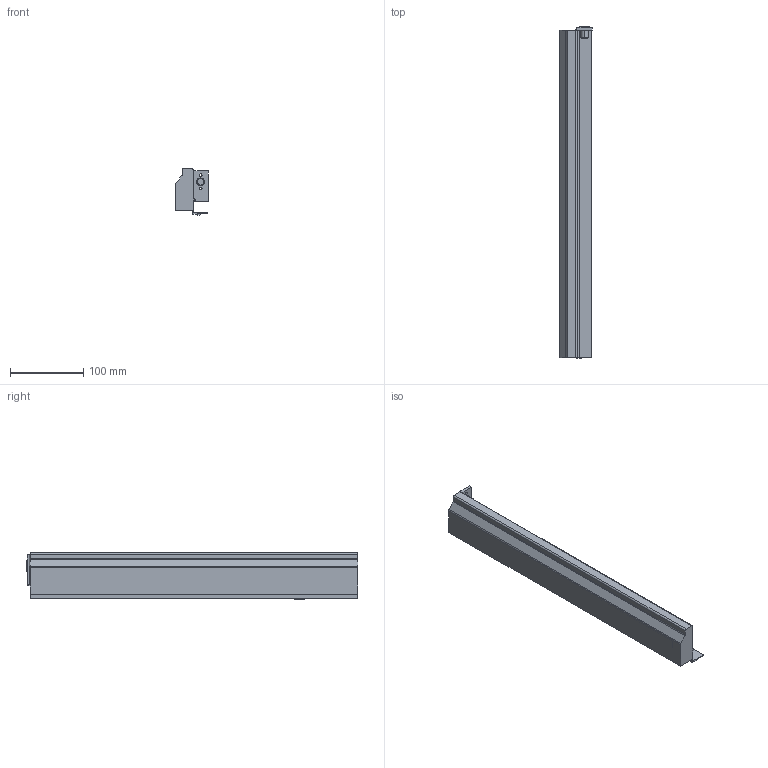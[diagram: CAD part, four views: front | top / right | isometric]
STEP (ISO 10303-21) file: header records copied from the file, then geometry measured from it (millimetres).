
FILE_DESCRIPTION (( 'STEP AP214' ), '1' );
FILE_NAME ('IMOS_NOVA-Pro_Dekor-H63_CL_NL450_LI.step', '2010-09-28T15:26:09', ( 'grass' ), ( '' ), 'SwSTEP 2.0', 'SolidWorks 2010', '' );
FILE_SCHEMA (( 'AUTOMOTIVE_DESIGN' ));
Length unit declared in the file: millimetre
Products named in the file (1): IMOS_NOVA-Pro_Dekor-H63_CL_NL450_LI
Bounding box: 44.3 x 452.7 x 63.49 mm (x, y, z)
Volume: 217739.6 mm3; surface area: 130649.8 mm2
Topology: 1 solids, 1 shells, 69 faces, 186 edges, 121 vertices
Faces by surface type: plane 41, cylinder 23, cone 4, bspline 1
Entity records: 2206 total; most frequent: CARTESIAN_POINT 390, DIRECTION 375, ORIENTED_EDGE 372, EDGE_CURVE 186, VECTOR 131, LINE 131, AXIS2_PLACEMENT_3D 122, VERTEX_POINT 121
